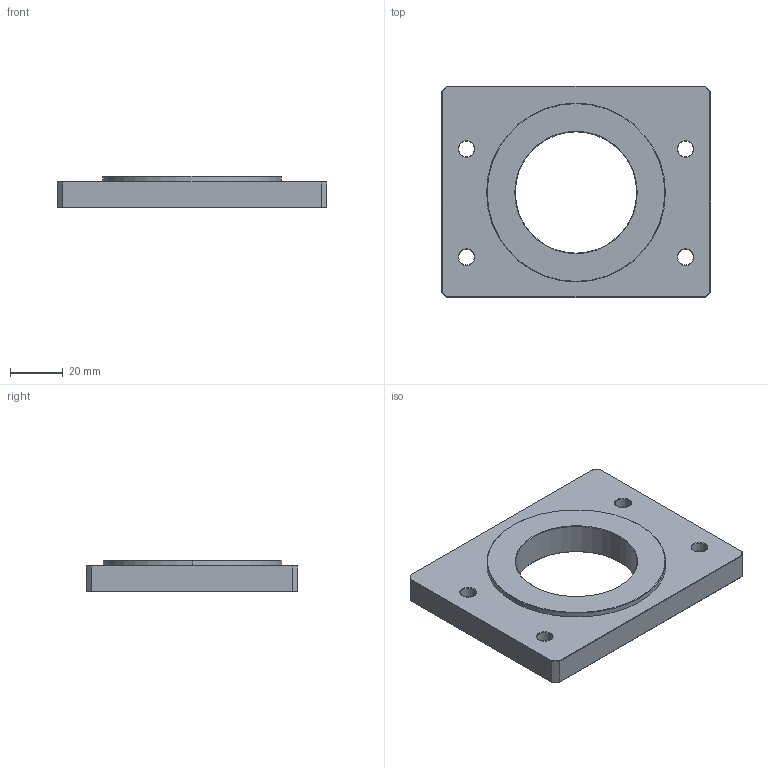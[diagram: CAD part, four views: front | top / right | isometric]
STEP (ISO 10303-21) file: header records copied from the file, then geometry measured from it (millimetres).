
FILE_DESCRIPTION((''),'2;1');
FILE_NAME('MI80','2017-05-23T',('Owner'),(''),'PRO/ENGINEER BY PARAMETRIC TECHNOLOGY CORPORATION, 2009440','PRO/ENGINEER BY PARAMETRIC TECHNOLOGY CORPORATION, 2009440','');
FILE_SCHEMA(('CONFIG_CONTROL_DESIGN'));
Length unit declared in the file: millimetre
Products named in the file (1): MI80
Bounding box: 102 x 80 x 12 mm (x, y, z)
Volume: 66034.4 mm3; surface area: 19462 mm2
Topology: 1 solids, 1 shells, 81 faces, 176 edges, 102 vertices
Faces by surface type: plane 31, cone 30, cylinder 20
Entity records: 2230 total; most frequent: DIRECTION 408, CARTESIAN_POINT 359, ORIENTED_EDGE 352, EDGE_CURVE 176, AXIS2_PLACEMENT_3D 151, VECTOR 106, LINE 106, VERTEX_POINT 102
